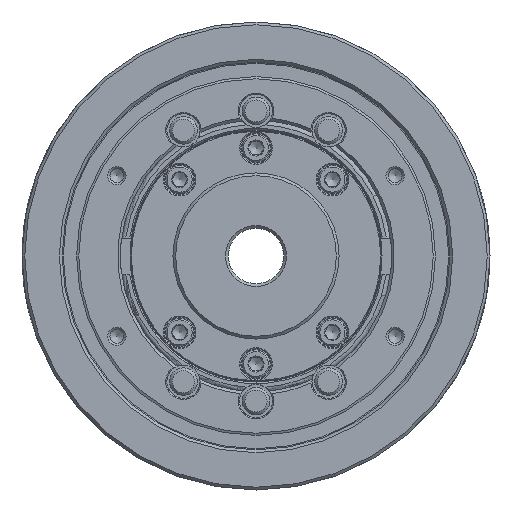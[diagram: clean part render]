
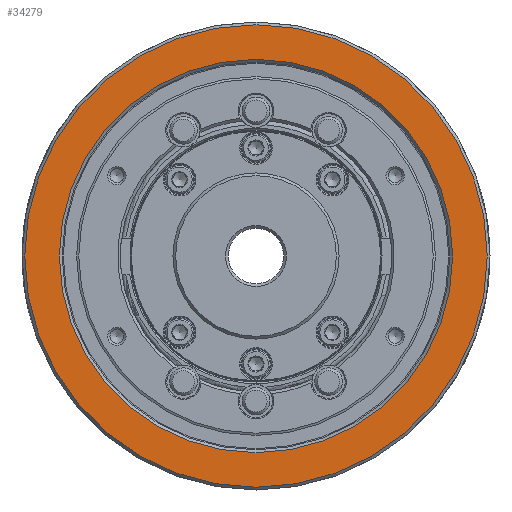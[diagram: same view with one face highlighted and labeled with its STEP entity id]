
A CAD part, left-side view. The second image highlights one B-rep face of the part: STEP entity #34279.
In plain terms, the highlighted planar face has unit normal (-1, 0, 0).
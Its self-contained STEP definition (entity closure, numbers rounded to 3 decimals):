
#644 = VERTEX_POINT ( 'NONE', #1415 ) ;
#1415 = CARTESIAN_POINT ( 'NONE',  ( -81., 0., 83.5 ) ) ;
#3682 = DIRECTION ( 'NONE',  ( 1., 0., 0. ) ) ;
#4428 = FACE_BOUND ( 'NONE', #11300, .T. ) ;
#5935 = DIRECTION ( 'NONE',  ( 1., 0., 0. ) ) ;
#9497 = CIRCLE ( 'NONE', #43423, 71. ) ;
#9743 = CARTESIAN_POINT ( 'NONE',  ( -81., 0., 71. ) ) ;
#10075 = ORIENTED_EDGE ( 'NONE', *, *, #37312, .F. ) ;
#11300 = EDGE_LOOP ( 'NONE', ( #39438 ) ) ;
#12352 = EDGE_LOOP ( 'NONE', ( #10075 ) ) ;
#13159 = CIRCLE ( 'NONE', #46977, 83.5 ) ;
#23054 = FACE_OUTER_BOUND ( 'NONE', #12352, .T. ) ;
#34279 = ADVANCED_FACE ( 'NONE', ( #23054, #4428 ), #50641, .F. ) ;
#35359 = CARTESIAN_POINT ( 'NONE',  ( -81., 0., 0. ) ) ;
#37312 = EDGE_CURVE ( 'NONE', #644, #644, #13159, .T. ) ;
#39438 = ORIENTED_EDGE ( 'NONE', *, *, #60020, .T. ) ;
#43423 = AXIS2_PLACEMENT_3D ( 'NONE', #67260, #3682, #72970 ) ;
#46114 = CARTESIAN_POINT ( 'NONE',  ( -81., 71., 0. ) ) ;
#46977 = AXIS2_PLACEMENT_3D ( 'NONE', #35359, #68590, #51568 ) ;
#50641 = PLANE ( 'NONE',  #68413 ) ;
#51568 = DIRECTION ( 'NONE',  ( 0., 0., 1. ) ) ;
#52140 = DIRECTION ( 'NONE',  ( 0., 0., 1. ) ) ;
#60020 = EDGE_CURVE ( 'NONE', #73315, #73315, #9497, .T. ) ;
#67260 = CARTESIAN_POINT ( 'NONE',  ( -81., 0., 0. ) ) ;
#68413 = AXIS2_PLACEMENT_3D ( 'NONE', #46114, #5935, #52140 ) ;
#68590 = DIRECTION ( 'NONE',  ( 1., 0., 0. ) ) ;
#72970 = DIRECTION ( 'NONE',  ( 0., 0., 1. ) ) ;
#73315 = VERTEX_POINT ( 'NONE', #9743 ) ;
